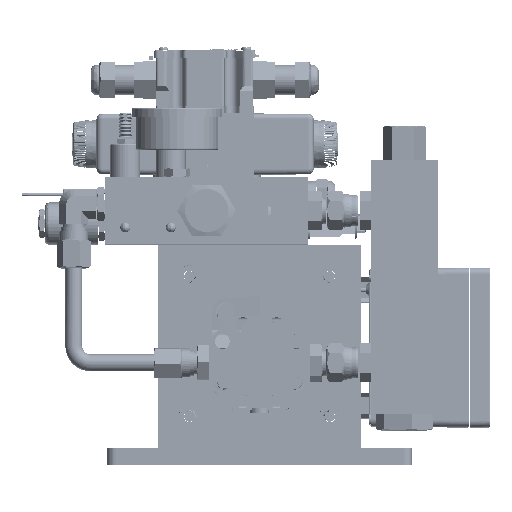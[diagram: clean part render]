
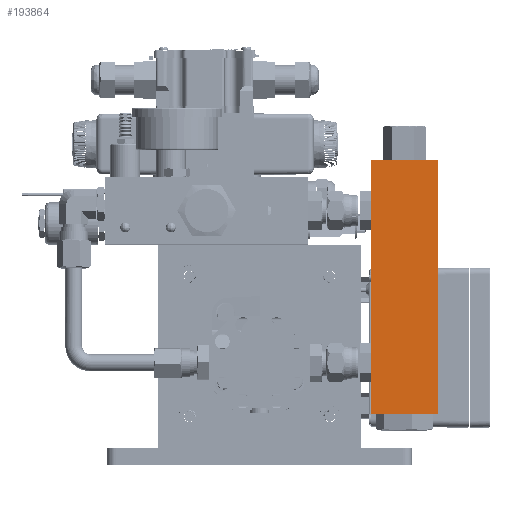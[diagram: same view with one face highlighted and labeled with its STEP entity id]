
A CAD part, top view. The second image highlights one B-rep face of the part: STEP entity #193864.
In plain terms, the highlighted planar face has unit normal (0, 0, 1).
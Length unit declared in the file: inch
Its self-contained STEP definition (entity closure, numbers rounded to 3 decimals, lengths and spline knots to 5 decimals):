
#933 = VECTOR ( 'NONE', #228923, 39.37008 ) ;
#6492 = ORIENTED_EDGE ( 'NONE', *, *, #28408, .T. ) ;
#13594 = EDGE_LOOP ( 'NONE', ( #99938, #194684, #212650, #6492 ) ) ;
#16424 = LINE ( 'NONE', #100966, #61537 ) ;
#28408 = EDGE_CURVE ( 'NONE', #137432, #105586, #16424, .T. ) ;
#45003 = CARTESIAN_POINT ( 'NONE',  ( 3.28321, -2., 7.898 ) ) ;
#45788 = VECTOR ( 'NONE', #245649, 39.37008 ) ;
#57104 = EDGE_CURVE ( 'NONE', #137432, #175698, #76515, .T. ) ;
#59903 = LINE ( 'NONE', #144382, #933 ) ;
#61537 = VECTOR ( 'NONE', #185500, 39.37008 ) ;
#65780 = FACE_OUTER_BOUND ( 'NONE', #13594, .T. ) ;
#68477 = DIRECTION ( 'NONE',  ( -1., 0., 0. ) ) ;
#76384 = VERTEX_POINT ( 'NONE', #249652 ) ;
#76515 = LINE ( 'NONE', #161033, #45788 ) ;
#83335 = DIRECTION ( 'NONE',  ( 1., 0., 0. ) ) ;
#99938 = ORIENTED_EDGE ( 'NONE', *, *, #110854, .T. ) ;
#100966 = CARTESIAN_POINT ( 'NONE',  ( 3.28321, 5.5, 7.898 ) ) ;
#105586 = VERTEX_POINT ( 'NONE', #45003 ) ;
#110854 = EDGE_CURVE ( 'NONE', #105586, #76384, #188652, .T. ) ;
#116353 = CARTESIAN_POINT ( 'NONE',  ( 5.28321, 5.5, 7.898 ) ) ;
#137432 = VERTEX_POINT ( 'NONE', #204271 ) ;
#144382 = CARTESIAN_POINT ( 'NONE',  ( 5.28321, 5.5, 7.898 ) ) ;
#150289 = PLANE ( 'NONE',  #194364 ) ;
#161033 = CARTESIAN_POINT ( 'NONE',  ( 3.28321, 5.5, 7.898 ) ) ;
#173793 = CARTESIAN_POINT ( 'NONE',  ( 3.28321, 5.5, 7.898 ) ) ;
#175698 = VERTEX_POINT ( 'NONE', #116353 ) ;
#180607 = EDGE_CURVE ( 'NONE', #175698, #76384, #59903, .T. ) ;
#185500 = DIRECTION ( 'NONE',  ( 0., -1., 0. ) ) ;
#188652 = LINE ( 'NONE', #273163, #218423 ) ;
#193864 = ADVANCED_FACE ( 'NONE', ( #65780 ), #150289, .F. ) ;
#194364 = AXIS2_PLACEMENT_3D ( 'NONE', #173793, #258415, #68477 ) ;
#194684 = ORIENTED_EDGE ( 'NONE', *, *, #180607, .F. ) ;
#204271 = CARTESIAN_POINT ( 'NONE',  ( 3.28321, 5.5, 7.898 ) ) ;
#212650 = ORIENTED_EDGE ( 'NONE', *, *, #57104, .F. ) ;
#218423 = VECTOR ( 'NONE', #83335, 39.37008 ) ;
#228923 = DIRECTION ( 'NONE',  ( 0., -1., 0. ) ) ;
#245649 = DIRECTION ( 'NONE',  ( 1., 0., 0. ) ) ;
#249652 = CARTESIAN_POINT ( 'NONE',  ( 5.28321, -2., 7.898 ) ) ;
#258415 = DIRECTION ( 'NONE',  ( 0., 0., -1. ) ) ;
#273163 = CARTESIAN_POINT ( 'NONE',  ( 3.28321, -2., 7.898 ) ) ;
